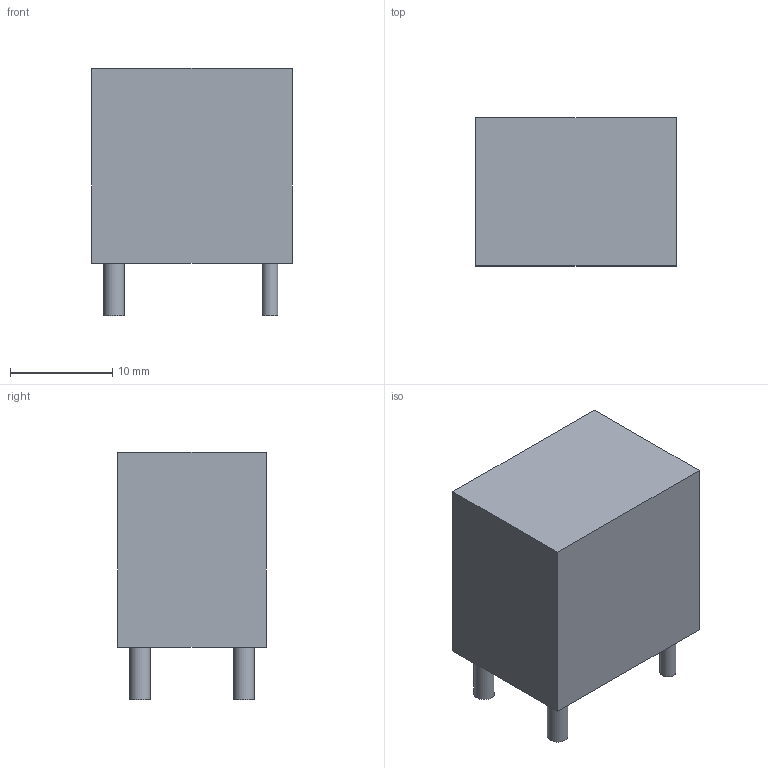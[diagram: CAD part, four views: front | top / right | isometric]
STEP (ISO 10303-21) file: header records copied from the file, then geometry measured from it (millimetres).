
FILE_DESCRIPTION(('FreeCAD Model'),'2;1');
FILE_NAME('/var/www/3D/0T/292589.1.7.stp','2020-04-30T10:15:15',( 'Author'),(''),'Open CASCADE STEP processor 6.9','FreeCAD','Unknown' );
FILE_SCHEMA(('AUTOMOTIVE_DESIGN { 1 0 10303 214 1 1 1 1 }'));
Length unit declared in the file: millimetre
Products named in the file (3): ASSEMBLY; Body; Leads
Assembly tree (5 placements, depth 2):
  ASSEMBLY
    Body
    Leads  x4
Bounding box: 19.56 x 14.48 x 24.15 mm (x, y, z)
Volume: 5605.5 mm3; surface area: 2405.9 mm2
Topology: 17 solids, 17 shells, 54 faces, 60 edges, 40 vertices
Faces by surface type: plane 38, cylinder 16
Full cylindrical faces by diameter (mm): 1.56 x8, 2.03 x8
Entity records: 799 total; most frequent: DIRECTION 128, CARTESIAN_POINT 112, LINE 56, VECTOR 56, ORIENTED_EDGE 48, PCURVE 48, DEFINITIONAL_REPRESENTATION 48, AXIS2_PLACEMENT_3D 32
